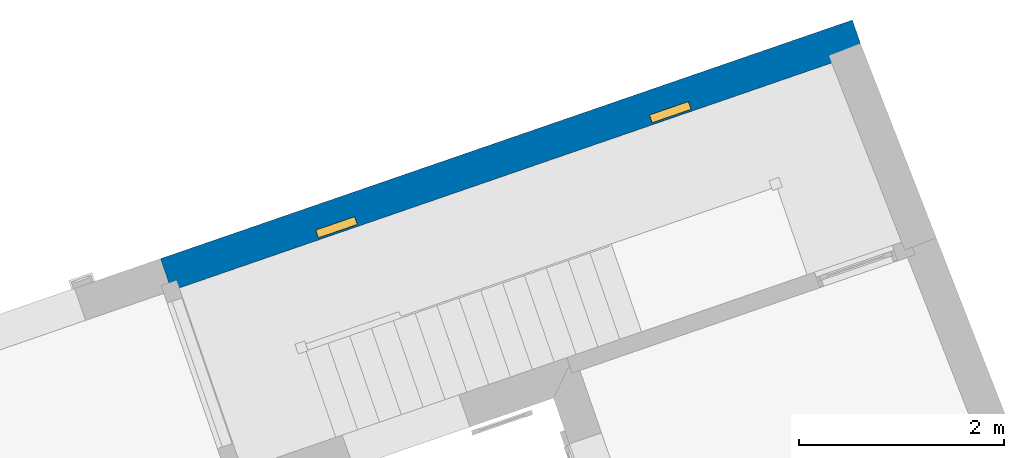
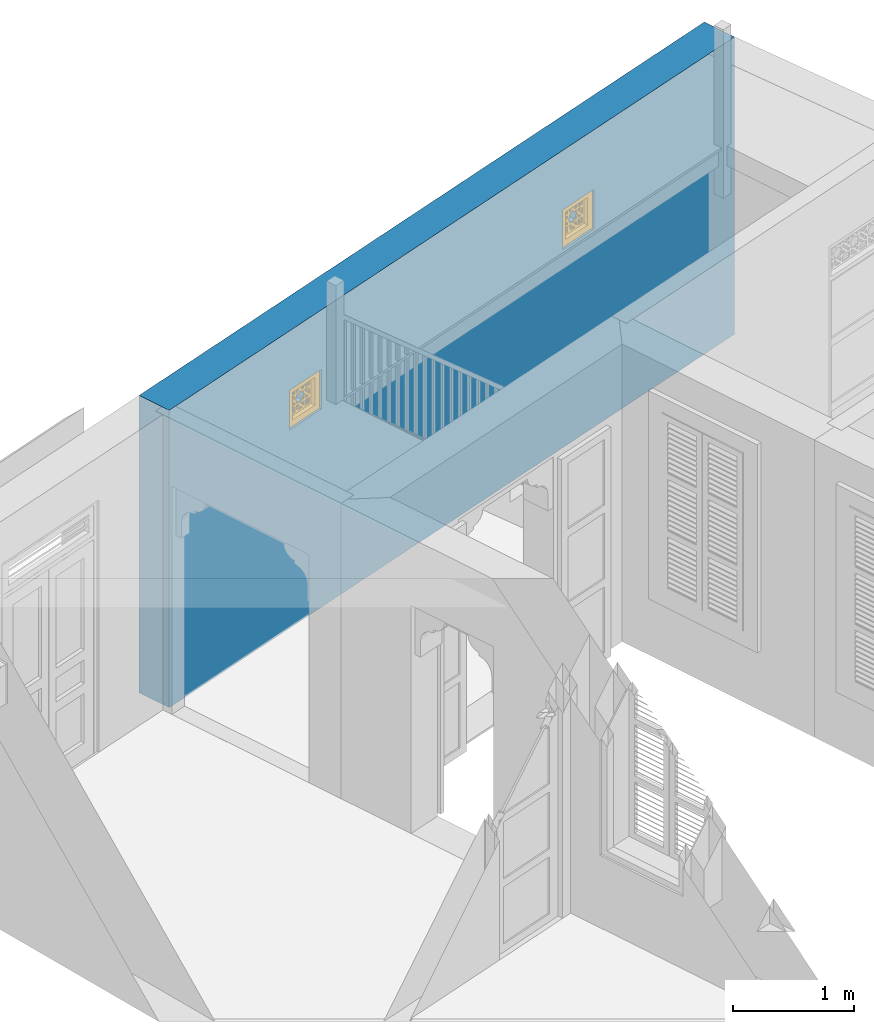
# One storey, part 14 of 16: 2 windows, 1 wall, 2 openings.
"""IFC4 building model written with IfcOpenShell, lengths in metres."""

from ifc_helpers import new_model, si_unit, frame, origin, origin_with_axes, place, context, subcontext, project, spatial, polyline, outline, extrude, faceted_brep, source, transform, mapped, material, layer, layer_set, layer_usage, type_object, type_shapes, element, fill, save


model = new_model("IFC4")

# Units and contexts
model_context = context("Model", 3, world=origin_with_axes())
body_context = subcontext(model_context, "Body", "Model", "MODEL_VIEW")
ifc_project = project(units=[si_unit("PLANEANGLEUNIT", "RADIAN"), si_unit("MASSUNIT", "GRAM", prefix="KILO"), si_unit("FORCEUNIT", "NEWTON", prefix="KILO"), si_unit("LENGTHUNIT", "METRE"), si_unit("AREAUNIT", "SQUARE_METRE"), si_unit("VOLUMEUNIT", "CUBIC_METRE")], contexts=[model_context, model_context])

# Site, building, storey
site_placement = place(None, origin_with_axes())
site = spatial("IfcSite", under=ifc_project, at=site_placement, Name="Site plot-8", CompositionType="ELEMENT")
building_placement = place(None, origin_with_axes())
building = spatial("IfcBuilding", under=site, at=building_placement, Name="Building plot-8", CompositionType="ELEMENT")
storey_placement = place(None, origin_with_axes())
storey = spatial("IfcBuildingStorey", under=building, at=storey_placement, Name="plot-8 0", CompositionType="ELEMENT", Elevation=0.0)

# Wall, openings, windows
ifc_material = material(Name="Masonry")
ifc_layer = layer(ifc_material, 0.33, ventilated=False)
ifc_layer_set = layer_set([ifc_layer], Name="exterior_0.08_0.25")
ifc_layer_usage = layer_usage(ifc_layer_set, "AXIS2", "POSITIVE", -0.25)
wall_type = type_object("IfcWallType", Name="exterior_0.08_0.25", PredefinedType="SOLIDWALL", material=ifc_layer_set)
wall_placement = place(storey_placement, frame((-5.76279158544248, 24.7267673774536, 0.0), z_axis=(0.0, 0.0, 1.0), x_axis=(-0.945331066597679, -0.326112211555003, 0.0)))
wall = element("IfcWall", 1, at=wall_placement, inside=storey, type_object=wall_type, material=ifc_layer_usage, Name="exterior", context=body_context, shape_type="SweptSolid", body=[
    extrude(outline(polyline([(-0.25, 0.0799999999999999), (-0.249999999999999, -0.249999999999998), (6.87613075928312, -0.249999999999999), (6.87613075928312, 0.0799999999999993), (-0.25, 0.0799999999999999)])), origin_with_axes(), (0.0, 0.0, 1.0), 3.0),
])
opening_1_placement = place(wall_placement, frame((1.51903268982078, 0.0, 2.0)))
opening_1 = element("IfcOpeningElement", 2, at=opening_1_placement, cuts=wall, Name="My Opening", ObjectType="Opening", context=body_context, shape_type="SweptSolid", body=[
    extrude(outline(polyline([(0.0, -0.269999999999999), (0.4, -0.269999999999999), (0.4, 1.1), (4.44089209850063e-16, 1.1), (0.0, -0.269999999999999)])), origin_with_axes(), (0.0, 0.0, 1.0), 0.4),
])
opening_2_placement = place(wall_placement, frame((4.95709806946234, 0.0, 2.0)))
opening_2 = element("IfcOpeningElement", 3, at=opening_2_placement, cuts=wall, Name="My Opening", ObjectType="Opening", context=body_context, shape_type="SweptSolid", body=[
    extrude(outline(polyline([(0.0, -0.270000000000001), (0.399999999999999, -0.27), (0.399999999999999, 1.1), (0.0, 1.1), (0.0, -0.270000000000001)])), origin_with_axes(), (0.0, 0.0, 1.0), 0.4),
])
window_type = type_object("IfcWindowType", Name="barred_window", PartitioningType="DOUBLE_PANEL_HORIZONTAL", PredefinedType="NOTDEFINED")
shared_shape = source(origin(), body_context, "Body", "Brep", [
    faceted_brep([(0.4, 0.25, 0.4), (0.0, 0.25, 0.4), (0.06, 0.25, 0.34), (0.34, 0.25, 0.34), (0.06, 0.33, 0.34), (0.34, 0.33, 0.34), (0.34, 0.25, 0.06), (0.4, 0.25, 0.0), (0.4, 0.33, 0.4), (0.0, 0.33, 0.4), (0.0, 0.25, 0.0), (0.06, 0.25, 0.06), (0.06, 0.33, 0.06), (0.34, 0.33, 0.06), (0.4, 0.33, 0.0), (0.0, 0.33, 0.0), (0.136152, 0.28, 0.08), (0.08, 0.28, 0.08), (0.06, 0.28, 0.06), (0.136152, 0.28, 0.06), (0.136152, 0.29, 0.08), (0.08, 0.29, 0.08), (0.06, 0.28, 0.136152), (0.08, 0.28, 0.136152), (0.06, 0.29, 0.06), (0.136152, 0.29, 0.06), (0.170294, 0.28, 0.08), (0.170294, 0.28, 0.06), (0.136152, 0.28, 0.136152), (0.136152, 0.29, 0.136152), (0.08, 0.29, 0.136152), (0.06, 0.29, 0.136152), (0.08, 0.28, 0.170294), (0.06, 0.28, 0.170294), (0.170294, 0.29, 0.06), (0.229706, 0.28, 0.08), (0.229706, 0.28, 0.06), (0.156152, 0.28, 0.094142), (0.156152, 0.28, 0.136152), (0.185858, 0.28, 0.123848), (0.185858, 0.29, 0.123848), (0.156152, 0.29, 0.094142), (0.156152, 0.29, 0.136152), (0.229706, 0.29, 0.08), (0.170294, 0.29, 0.08), (0.2, 0.28, 0.109706), (0.2, 0.29, 0.109706), (0.06, 0.29, 0.170294), (0.094142, 0.28, 0.156152), (0.08, 0.28, 0.229706), (0.06, 0.28, 0.229706), (0.229706, 0.29, 0.06), (0.263848, 0.28, 0.08), (0.263848, 0.28, 0.06), (0.156152, 0.28, 0.156152), (0.136152, 0.28, 0.156152), (0.173553, 0.28, 0.136152), (0.173553, 0.29, 0.136152), (0.156152, 0.29, 0.156152), (0.136152, 0.29, 0.156152), (0.094142, 0.29, 0.156152), (0.08, 0.29, 0.170294), (0.06, 0.29, 0.229706), (0.123848, 0.28, 0.185858), (0.109706, 0.28, 0.2), (0.08, 0.29, 0.229706), (0.08, 0.28, 0.263848), (0.06, 0.28, 0.263848), (0.263848, 0.29, 0.06), (0.2, 0.28, 0.13799), (0.214142, 0.28, 0.123848), (0.34, 0.28, 0.06), (0.32, 0.28, 0.08), (0.181838, 0.28, 0.156152), (0.136152, 0.28, 0.173553), (0.156152, 0.28, 0.181838), (0.181838, 0.29, 0.156152), (0.2, 0.29, 0.13799), (0.214142, 0.29, 0.123848), (0.136152, 0.29, 0.173553), (0.156152, 0.29, 0.181838), (0.243848, 0.28, 0.094142), (0.243848, 0.29, 0.094142), (0.263848, 0.28, 0.136152), (0.263848, 0.29, 0.08), (0.263848, 0.29, 0.136152), (0.32, 0.29, 0.08), (0.243848, 0.28, 0.136152), (0.243848, 0.29, 0.136152), (0.06, 0.29, 0.263848), (0.123848, 0.29, 0.185858), (0.13799, 0.28, 0.2), (0.123848, 0.28, 0.214142), (0.109706, 0.29, 0.2), (0.094142, 0.28, 0.243848), (0.08, 0.28, 0.32), (0.06, 0.28, 0.34), (0.34, 0.29, 0.06), (0.218162, 0.28, 0.156152), (0.226447, 0.28, 0.136152), (0.34, 0.28, 0.229706), (0.32, 0.28, 0.229706), (0.32, 0.28, 0.170294), (0.32, 0.28, 0.136152), (0.218162, 0.29, 0.156152), (0.226447, 0.29, 0.136152), (0.13799, 0.29, 0.2), (0.32, 0.29, 0.136152), (0.08, 0.29, 0.263848), (0.06, 0.29, 0.34), (0.136152, 0.28, 0.226447), (0.156152, 0.28, 0.218162), (0.094142, 0.29, 0.243848), (0.123848, 0.29, 0.214142), (0.136152, 0.28, 0.243848), (0.136152, 0.28, 0.263848), (0.08, 0.29, 0.32), (0.136152, 0.28, 0.34), (0.136152, 0.28, 0.32), (0.34, 0.29, 0.229706), (0.243848, 0.28, 0.156152), (0.263848, 0.28, 0.156152), (0.34, 0.28, 0.263848), (0.32, 0.28, 0.263848), (0.32, 0.29, 0.229706), (0.32, 0.29, 0.170294), (0.290294, 0.28, 0.2), (0.276152, 0.28, 0.185858), (0.305858, 0.28, 0.156152), (0.243848, 0.29, 0.156152), (0.263848, 0.29, 0.156152), (0.305858, 0.29, 0.156152), (0.276152, 0.29, 0.185858), (0.290294, 0.29, 0.2), (0.136152, 0.29, 0.34), (0.136152, 0.29, 0.226447), (0.156152, 0.29, 0.218162), (0.156152, 0.28, 0.243848), (0.136152, 0.29, 0.243848), (0.156152, 0.28, 0.263848), (0.136152, 0.29, 0.263848), (0.136152, 0.29, 0.32), (0.170294, 0.28, 0.32), (0.170294, 0.28, 0.34), (0.34, 0.29, 0.263848), (0.243848, 0.28, 0.181838), (0.263848, 0.28, 0.173553), (0.34, 0.28, 0.34), (0.32, 0.28, 0.32), (0.305858, 0.28, 0.243848), (0.276152, 0.28, 0.214142), (0.26201, 0.28, 0.2), (0.243848, 0.29, 0.181838), (0.263848, 0.29, 0.173553), (0.26201, 0.29, 0.2), (0.276152, 0.29, 0.214142), (0.32, 0.29, 0.263848), (0.170294, 0.29, 0.34), (0.156152, 0.29, 0.243848), (0.173553, 0.28, 0.263848), (0.181838, 0.28, 0.243848), (0.156152, 0.28, 0.305858), (0.229706, 0.28, 0.32), (0.229706, 0.28, 0.34), (0.34, 0.29, 0.34), (0.263848, 0.28, 0.34), (0.263848, 0.28, 0.32), (0.32, 0.29, 0.32), (0.263848, 0.28, 0.263848), (0.263848, 0.28, 0.243848), (0.305858, 0.29, 0.243848), (0.263848, 0.28, 0.226447), (0.243848, 0.28, 0.218162), (0.243848, 0.29, 0.218162), (0.263848, 0.29, 0.226447), (0.156152, 0.29, 0.263848), (0.170294, 0.29, 0.32), (0.229706, 0.29, 0.34), (0.181838, 0.29, 0.243848), (0.173553, 0.29, 0.263848), (0.185858, 0.28, 0.276152), (0.2, 0.28, 0.26201), (0.156152, 0.29, 0.305858), (0.229706, 0.29, 0.32), (0.263848, 0.29, 0.34), (0.263848, 0.29, 0.32), (0.263848, 0.29, 0.263848), (0.243848, 0.28, 0.243848), (0.243848, 0.28, 0.263848), (0.263848, 0.29, 0.243848), (0.243848, 0.29, 0.243848), (0.2, 0.29, 0.26201), (0.185858, 0.29, 0.276152), (0.214142, 0.28, 0.276152), (0.218162, 0.28, 0.243848), (0.226447, 0.28, 0.263848), (0.243848, 0.28, 0.305858), (0.2, 0.28, 0.290294), (0.2, 0.29, 0.290294), (0.243848, 0.29, 0.263848), (0.218162, 0.29, 0.243848), (0.214142, 0.29, 0.276152), (0.226447, 0.29, 0.263848), (0.243848, 0.29, 0.305858)], [[[0, 1, 2, 3]], [[3, 2, 4, 5]], [[3, 6, 7, 0]], [[1, 0, 8, 9]], [[1, 10, 11, 2]], [[2, 11, 12, 4]], [[9, 8, 5, 4]], [[6, 3, 5, 13]], [[6, 11, 10, 7]], [[0, 7, 14, 8]], [[10, 1, 9, 15]], [[11, 6, 13, 12]], [[4, 12, 15, 9]], [[8, 14, 13, 5]], [[7, 10, 15, 14]], [[12, 13, 14, 15]], [[16, 17, 18, 19]], [[17, 16, 20, 21]], [[22, 18, 17, 23]], [[19, 18, 24, 25]], [[26, 16, 19, 27]], [[16, 28, 29, 20]], [[21, 20, 25, 24]], [[23, 17, 21, 30]], [[18, 22, 31, 24]], [[23, 32, 33, 22]], [[27, 19, 25, 34]], [[35, 26, 27, 36]], [[28, 16, 37, 38]], [[37, 39, 40, 41]], [[38, 37, 41, 42]], [[20, 29, 42, 41]], [[26, 35, 43, 44]], [[45, 26, 44, 46]], [[20, 44, 34, 25]], [[28, 23, 30, 29]], [[24, 31, 30, 21]], [[22, 33, 47, 31]], [[48, 32, 23]], [[32, 49, 50, 33]], [[36, 27, 34, 51]], [[39, 37, 26, 45]], [[52, 35, 36, 53]], [[38, 54, 55, 28]], [[39, 56, 57, 40]], [[41, 40, 46, 44]], [[56, 38, 42, 57]], [[58, 42, 29, 59]], [[35, 45, 46, 43]], [[44, 43, 51, 34]], [[23, 28, 55, 48]], [[29, 30, 60, 59]], [[61, 30, 31, 47]], [[33, 50, 62, 47]], [[48, 63, 64, 32]], [[49, 32, 61, 65]], [[49, 66, 67, 50]], [[53, 36, 51, 68]], [[69, 39, 45, 70]], [[53, 71, 72, 52]], [[73, 54, 38, 56]], [[74, 55, 54, 75]], [[56, 39, 69, 73]], [[40, 57, 76, 77]], [[40, 77, 78, 46]], [[58, 76, 57, 42]], [[59, 79, 80, 58]], [[45, 35, 81, 70]], [[43, 46, 78, 82]], [[83, 52, 84, 85]], [[82, 84, 43]], [[52, 72, 86, 84]], [[43, 84, 68, 51]], [[44, 20, 41]], [[70, 81, 82, 78]], [[81, 87, 88, 82]], [[48, 55, 59, 60]], [[61, 60, 30]], [[65, 61, 47, 62]], [[50, 67, 89, 62]], [[63, 48, 60, 90]], [[63, 91, 92, 64]], [[32, 64, 93, 61]], [[64, 49, 65, 93]], [[94, 66, 49]], [[66, 95, 96, 67]], [[71, 53, 68, 97]], [[98, 69, 70, 99]], [[81, 52, 83, 87]], [[72, 71, 100]], [[100, 101, 102]], [[103, 72, 100]], [[100, 102, 103]], [[54, 73, 76, 58]], [[55, 74, 79, 59]], [[75, 54, 58, 80]], [[63, 74, 75, 91]], [[73, 69, 77, 76]], [[77, 104, 105, 78]], [[79, 90, 106, 80]], [[84, 82, 88, 85]], [[103, 83, 85, 107]], [[72, 103, 107, 86]], [[97, 68, 84, 86]], [[99, 70, 78, 105]], [[87, 99, 105, 88]], [[90, 60, 61, 93]], [[108, 65, 62, 89]], [[67, 96, 109, 89]], [[74, 63, 90, 79]], [[110, 92, 91, 111]], [[49, 64, 92, 94]], [[93, 65, 112, 113]], [[94, 114, 115, 66]], [[95, 66, 108, 116]], [[117, 96, 95, 118]], [[100, 71, 97, 119]], [[69, 98, 104, 77]], [[99, 87, 120, 98]], [[87, 83, 121, 120]], [[101, 100, 122, 123]], [[102, 101, 124, 125]], [[121, 83, 103]], [[103, 102, 126]], [[126, 127, 128]], [[128, 121, 103]], [[103, 126, 128]], [[91, 75, 80, 106]], [[88, 105, 104, 129]], [[106, 90, 93, 113]], [[85, 88, 129, 130]], [[107, 85, 130]], [[131, 132, 133]], [[107, 130, 131]], [[133, 125, 107]], [[107, 131, 133]], [[124, 119, 97]], [[97, 86, 107]], [[107, 125, 124]], [[97, 107, 124]], [[108, 112, 65]], [[116, 108, 89, 109]], [[96, 117, 134, 109]], [[92, 110, 135, 113]], [[111, 91, 106, 136]], [[114, 110, 111, 137]], [[94, 92, 113, 112]], [[114, 94, 112, 138]], [[114, 137, 139, 115]], [[66, 115, 140, 108]], [[118, 95, 116, 141]], [[118, 142, 143, 117]], [[122, 100, 119, 144]], [[98, 120, 129, 104]], [[145, 120, 121, 146]], [[122, 147, 148, 123]], [[123, 149, 101]], [[101, 126, 133, 124]], [[126, 102, 125, 133]], [[127, 126, 150, 151]], [[128, 127, 132, 131]], [[121, 128, 131, 130]], [[113, 135, 136, 106]], [[129, 152, 153, 130]], [[133, 132, 154, 155]], [[119, 124, 156, 144]], [[138, 112, 108, 140]], [[109, 134, 141, 116]], [[117, 143, 157, 134]], [[110, 114, 138, 135]], [[137, 111, 136, 158]], [[159, 139, 137, 160]], [[118, 115, 139, 161]], [[115, 118, 141, 140]], [[161, 142, 118]], [[162, 163, 143, 142]], [[147, 122, 144, 164]], [[120, 145, 152, 129]], [[146, 121, 130, 153]], [[146, 127, 151, 145]], [[147, 165, 166, 148]], [[123, 148, 167, 156]], [[149, 123, 168, 169]], [[149, 150, 126, 101]], [[155, 170, 124, 133]], [[151, 150, 171, 172]], [[127, 146, 153, 132]], [[135, 138, 158, 136]], [[132, 153, 152, 154]], [[155, 154, 173, 174]], [[170, 156, 124]], [[164, 144, 156, 167]], [[158, 138, 140, 175]], [[176, 141, 134, 157]], [[143, 163, 177, 157]], [[160, 137, 158, 178]], [[139, 159, 179, 175]], [[180, 159, 160, 181]], [[161, 139, 175, 182]], [[140, 141, 182, 175]], [[166, 165, 163, 162]], [[162, 142, 176, 183]], [[165, 147, 164, 184]], [[145, 151, 154, 152]], [[148, 166, 185, 167]], [[156, 186, 168, 123]], [[187, 169, 168, 188]], [[149, 169, 189, 170]], [[150, 149, 170, 155]], [[171, 150, 155, 174]], [[171, 169, 187, 172]], [[151, 172, 173, 154]], [[189, 174, 173, 190]], [[156, 170, 189, 186]], [[184, 164, 167, 185]], [[175, 179, 178, 158]], [[176, 182, 141]], [[177, 183, 176, 157]], [[163, 165, 184, 177]], [[181, 160, 178, 191]], [[159, 180, 192, 179]], [[180, 161, 182, 192]], [[193, 181, 194, 195]], [[196, 162, 197, 193]], [[180, 197, 142, 161]], [[197, 180, 181, 193]], [[142, 197, 198, 176]], [[162, 196, 166]], [[35, 52, 81]], [[197, 162, 183, 198]], [[185, 166, 168, 186]], [[196, 188, 168, 166]], [[187, 188, 195, 194]], [[169, 171, 174, 189]], [[172, 187, 190, 173]], [[189, 190, 199, 186]], [[184, 185, 183, 177]], [[179, 192, 191, 178]], [[176, 198, 192, 182]], [[194, 181, 191, 200]], [[191, 192, 198, 201]], [[26, 37, 16]], [[193, 195, 202, 201]], [[196, 193, 201, 203]], [[191, 201, 202, 200]], [[183, 203, 201, 198]], [[188, 196, 203, 199]], [[203, 183, 185]], [[199, 203, 185, 186]], [[195, 188, 199, 202]], [[187, 194, 200, 190]], [[199, 190, 200, 202]]]),
])
type_shapes(window_type, [shared_shape])
window_1_placement = place(storey_placement, frame((-7.28683067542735, 24.4866316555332, 2.0), z_axis=(0.0, 0.0, 1.0), x_axis=(-0.378132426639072, -0.130444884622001, 0.0)))
window_1 = element("IfcWindow", 4, at=window_1_placement, inside=storey, type_object=window_type, Name="circulation street window", OverallHeight=0.4, OverallWidth=0.4, context=body_context, shape_type="MappedRepresentation", body=[
    mapped(shared_shape, transform((0.0, 0.0, 0.0), scale=1.0)),
])
fill(opening_1, window_1)
window_2_placement = place(storey_placement, frame((-10.5369406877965, 23.3654365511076, 2.0), z_axis=(0.0, 0.0, 1.0), x_axis=(-0.378132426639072, -0.130444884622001, 0.0)))
window_2 = element("IfcWindow", 5, at=window_2_placement, inside=storey, type_object=window_type, Name="circulation street window", OverallHeight=0.4, OverallWidth=0.4, context=body_context, shape_type="MappedRepresentation", body=[
    mapped(shared_shape, transform((0.0, 0.0, 0.0), scale=1.0)),
])
fill(opening_2, window_2)

save(model, "model.ifc")
